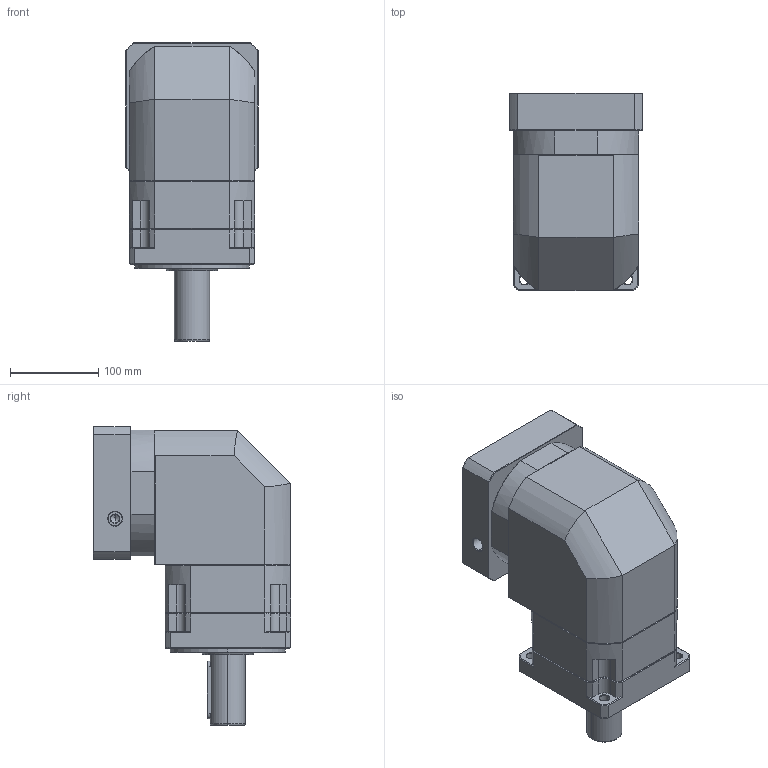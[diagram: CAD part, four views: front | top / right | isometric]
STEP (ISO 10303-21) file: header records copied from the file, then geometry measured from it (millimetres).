
FILE_DESCRIPTION (( 'STEP AP214' ), '1' );
FILE_NAME ('ZBR142A-D40-L1-P2-24-110-145-M8.step', '2023-09-02T07:10:36', ( '' ), ( '' ), 'SwSTEP 2.0', 'SolidWorks 2016', '' );
FILE_SCHEMA (( 'AUTOMOTIVE_DESIGN' ));
Length unit declared in the file: millimetre
Products named in the file (1): ZBR142A-D40-L1-P2-24-110-145-M8
Bounding box: 150 x 223 x 337.7 mm (x, y, z)
Volume: 5479999.1 mm3; surface area: 391187.2 mm2
Topology: 6 solids, 6 shells, 2338 faces, 6146 edges, 3915 vertices
Faces by surface type: plane 1120, cylinder 451, bspline 413, cone 332, torus 22
Entity records: 131449 total; most frequent: CARTESIAN_POINT 51694, ORIENTED_EDGE 12232, DIRECTION 9586, EDGE_CURVE 6116, VECTOR 3930, LINE 3930, VERTEX_POINT 3915, AXIS2_PLACEMENT_3D 2828
